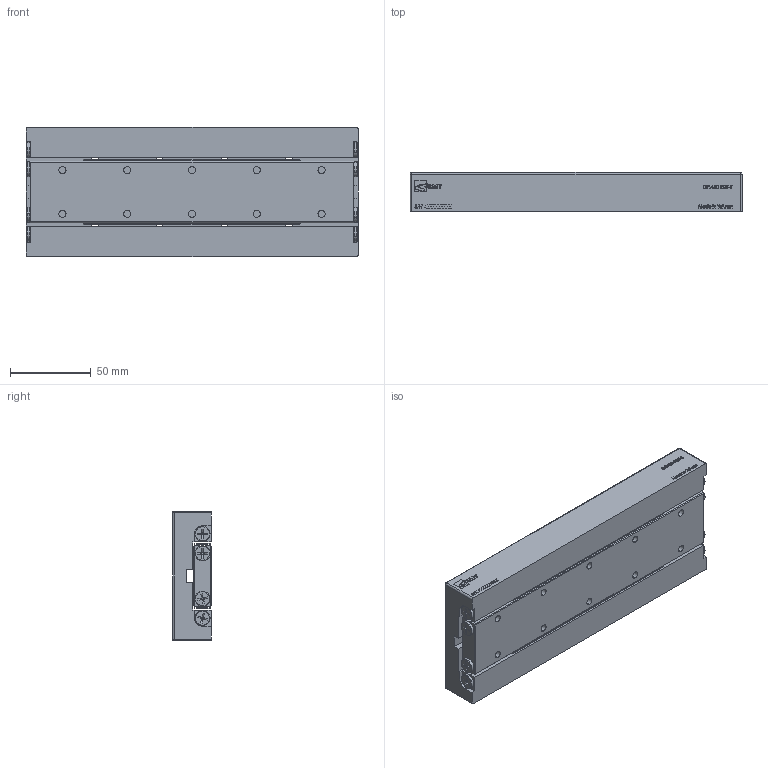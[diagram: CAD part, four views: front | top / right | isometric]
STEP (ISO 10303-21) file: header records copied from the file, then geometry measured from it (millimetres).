
FILE_DESCRIPTION (( 'STEP AP203' ), '1' );
FILE_NAME ('GRA80-205-S.STEP', '2013-12-14T07:08:02', ( '' ), ( '' ), 'SwSTEP 2.0', 'SolidWorks 2013', '' );
FILE_SCHEMA (( 'CONFIG_CONTROL_DESIGN' ));
Length unit declared in the file: millimetre
Products named in the file (1): GRA80-205-S
Bounding box: 205 x 24 x 80 mm (x, y, z)
Surface area: 80189.1 mm2 (no closed solid volume)
Topology: 0 solids, 56 shells, 335 faces, 2304 edges, 1985 vertices
Faces by surface type: plane 231, cylinder 64, torus 32, sphere 4, cone 3, bspline 1
Entity records: 26218 total; most frequent: CARTESIAN_POINT 9876, ORIENTED_EDGE 2939, DIRECTION 2881, EDGE_CURVE 2298, VERTEX_POINT 1985, LINE 1533, VECTOR 1533, AXIS2_PLACEMENT_3D 674
